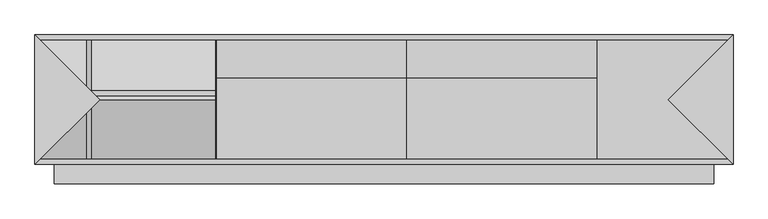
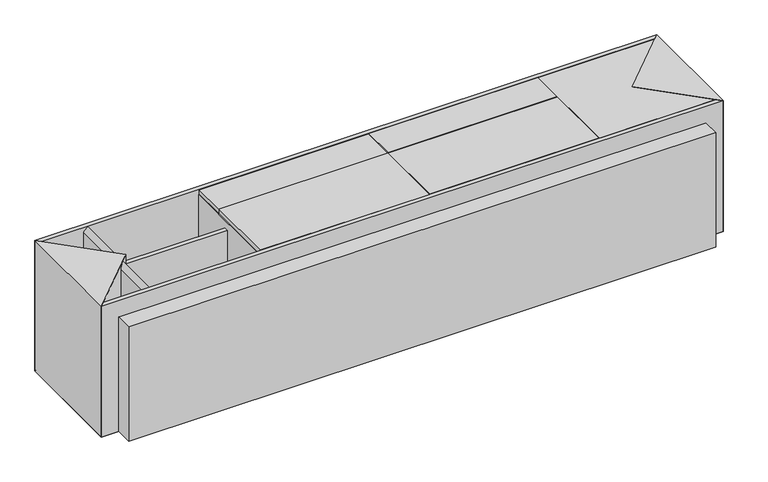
"""IFC4 building model written with IfcOpenShell, lengths in millimetres: proxy geometry, CCN^APOGEE_24x108 RT CREDENZA-PARTS SOLID."""

from ifc_helpers import new_model, si_unit, frame, origin, origin_with_axes, place, context, project, spatial, polyline, outline, extrude, faceted_brep, source, transform, mapped, element, save


def generic_models_c5bd2978(model_context):
    return source(origin(), model_context, "Body", "SolidModel", [
        faceted_brep([(2724.15, 488.95, 609.6), (2470.15, 234.95, 609.6), (2724.15, -19.05, 609.6), (2724.15, 488.95, 0.0), (2470.15, 234.95, 254.0), (2724.15, -19.05, 0.0)], [[[0, 1, 2]], [[1, 0, 3, 4]], [[1, 4, 5, 2]], [[4, 3, 5]], [[5, 3, 0, 2]]]),
        extrude(outline(polyline([(694.53125, 467.51875), (1439.8625, 467.51875), (1439.8625, 321.46875), (694.53125, 321.46875), (694.53125, 467.51875)])), frame((0.0, 0.0, 590.55), z_axis=(0.0, 0.0, 1.0), x_axis=(1.0, 0.0, 0.0)), (0.0, 0.0, 1.0), 19.05),
        extrude(outline(polyline([(1442.24375, 467.51875), (2187.575, 467.51875), (2187.575, 321.46875), (1442.24375, 321.46875), (1442.24375, 467.51875)])), frame((0.0, 0.0, 590.55), z_axis=(0.0, 0.0, 1.0), x_axis=(1.0, 0.0, 0.0)), (0.0, 0.0, 1.0), 19.05),
        extrude(outline(polyline([(1442.24375, 2.38125), (1442.24375, 319.0875), (2187.575, 319.0875), (2187.575, 2.38125), (1442.24375, 2.38125)])), frame((0.0, 0.0, 590.55), z_axis=(0.0, 0.0, 1.0), x_axis=(1.0, 0.0, 0.0)), (0.0, 0.0, 1.0), 19.05),
        extrude(outline(polyline([(57.15, -95.25), (57.15, -19.05), (2647.95, -19.05), (2647.95, -95.25), (57.15, -95.25)])), origin_with_axes(), (0.0, 0.0, 1.0), 533.4),
        extrude(outline(polyline([(711.2, 0.0), (692.15, 0.0), (692.15, 469.9), (711.2, 469.9), (711.2, 0.0)])), frame((0.0, 0.0, 19.05), z_axis=(0.0, 0.0, 1.0), x_axis=(1.0, 0.0, 0.0)), (0.0, 0.0, 1.0), 568.325),
        extrude(outline(polyline([(1439.8625, 319.0875), (1439.8625, 2.38125), (694.53125, 2.38125), (694.53125, 319.0875), (1439.8625, 319.0875)])), frame((0.0, 0.0, 590.55), z_axis=(0.0, 0.0, 1.0), x_axis=(1.0, 0.0, 0.0)), (0.0, 0.0, 1.0), 19.05),
        extrude(outline(polyline([(691.35625, 250.149995), (203.99375, 250.149995), (203.99375, 269.199995), (691.35625, 269.199995), (691.35625, 250.149995)])), frame((0.0, 0.0, 19.05), z_axis=(0.0, 0.0, 1.0), x_axis=(1.0, 0.0, 0.0)), (0.0, 0.0, 1.0), 533.4),
        extrude(outline(polyline([(2178.05, 469.9), (2197.1, 469.9), (2197.1, 0.0), (2178.05, 0.0), (2178.05, 469.9)])), frame((0.0, 0.0, 19.05), z_axis=(0.0, 0.0, 1.0), x_axis=(1.0, 0.0, 0.0)), (0.0, 0.0, 1.0), 568.325),
        faceted_brep([(-19.05, -19.05, 609.6), (234.95, 234.95, 609.6), (-19.05, 488.95, 609.6), (-19.05, -19.05, 0.0), (234.95, 234.95, 254.0), (-19.05, 488.95, 0.0)], [[[0, 1, 2]], [[1, 0, 3, 4]], [[1, 4, 5, 2]], [[4, 3, 5]], [[0, 2, 5, 3]]]),
        faceted_brep([(0.0, 469.9, 19.05), (-19.05, 488.95, 0.0), (2724.15, 488.95, 0.0), (2705.1, 469.9, 19.05), (0.0, 469.9, 609.6), (-19.05, 488.95, 609.6), (2705.1, 469.9, 609.6), (2724.15, 488.95, 609.6)], [[[0, 1, 2, 3]], [[1, 0, 4, 5]], [[0, 3, 6, 4]], [[3, 2, 7, 6]], [[2, 1, 5, 7]], [[5, 4, 6, 7]]]),
        faceted_brep([(2705.1, 0.0, 19.05), (2724.15, -19.05, 0.0), (-19.05, -19.05, 0.0), (0.0, 0.0, 19.05), (2705.1, 0.0, 609.6), (2724.15, -19.05, 609.6), (0.0, 0.0, 609.6), (-19.05, -19.05, 609.6)], [[[0, 1, 2, 3]], [[1, 0, 4, 5]], [[0, 3, 6, 4]], [[3, 2, 7, 6]], [[2, 1, 5, 7]], [[5, 4, 6, 7]]]),
        faceted_brep([(-19.05, -19.05, 0.0), (234.95, 234.95, 254.0), (-19.05, 488.95, 0.0), (2724.15, -19.05, 0.0), (2470.15, 234.95, 254.0), (2724.15, 488.95, 0.0)], [[[0, 1, 2]], [[1, 0, 3, 4]], [[1, 4, 5, 2]], [[4, 3, 5]], [[3, 0, 2, 5]]]),
        extrude(outline(polyline([(2189.95625, 467.51875), (2702.71875, 467.51875), (2702.71875, 2.38125), (2189.95625, 2.38125), (2189.95625, 467.51875)])), frame((0.0, 0.0, 590.55), z_axis=(0.0, 0.0, 1.0), x_axis=(1.0, 0.0, 0.0)), (0.0, 0.0, 1.0), 19.05),
        extrude(outline(polyline([(19.05, 203.2), (609.6, 203.2), (590.55, 184.15), (19.05, 184.15), (19.05, 203.2)])), frame((0.0, 0.0, 0.0), z_axis=(0.0, 1.0, 0.0), x_axis=(0.0, 0.0, 1.0)), (0.0, 0.0, 1.0), 469.9),
    ])


if __name__ == "__main__":
    model = new_model("IFC4")
    model_context = context("Model", 3, world=origin())
    ifc_project = project(units=[si_unit("LENGTHUNIT", "METRE", prefix="MILLI")], contexts=[model_context])
    site = spatial("IfcSite", under=ifc_project)
    building = spatial("IfcBuilding", under=site)
    placement = place(None, origin())
    generic_models_shape = generic_models_c5bd2978(model_context)
    element("IfcBuildingElementProxy", 1, Name="CCN^APOGEE_24x108 RT CREDENZA-PARTS SOLID", ObjectType="CCN^APOGEE_24x108 RT CREDENZA-PARTS SOLID", at=placement, inside=building, context=model_context, shape_type="MappedRepresentation", body=[
        mapped(generic_models_shape, transform((0.0, 0.0, 0.0), x_axis=(1.0, 0.0, 0.0), y_axis=(0.0, 1.0, 0.0), z_axis=(0.0, 0.0, 1.0))),
    ])
    save(model, "model.ifc")
